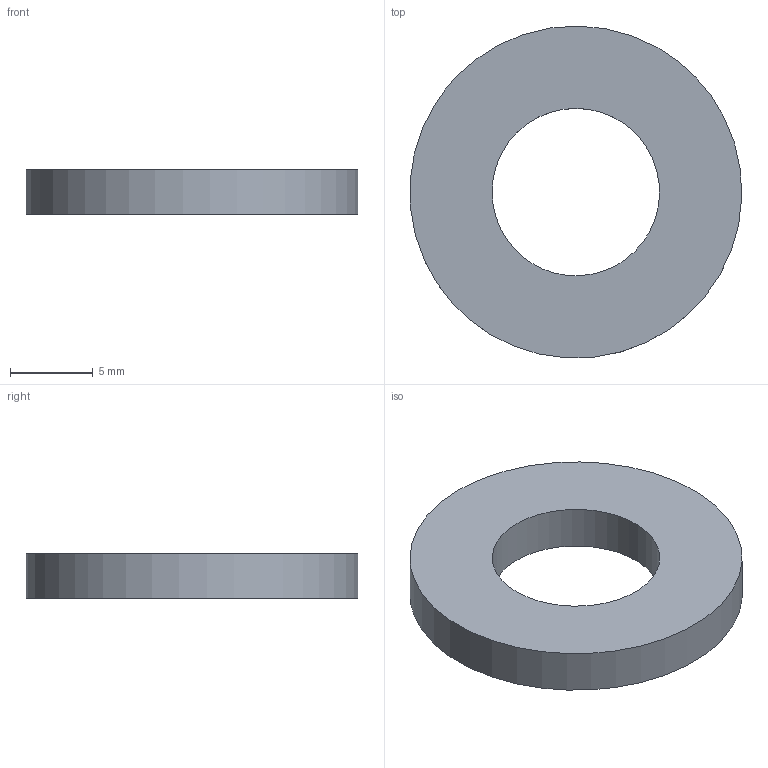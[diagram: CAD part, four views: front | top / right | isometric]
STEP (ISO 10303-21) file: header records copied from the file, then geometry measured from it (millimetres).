
FILE_DESCRIPTION ((), '1');
FILE_NAME ('C:\Users\tprototype\Desktop\TeslaGen-v1\Vendor Parts\M10 Fittings\M10 Washer\M10 Washer.stp', '2016-01-05T23:28:58', ('Unknown'), ('Unknown'), 'HarmonyWare STEP v1.7.11', 'HarmonyWare Translators', '');
FILE_SCHEMA (('CONFIG_CONTROL_DESIGN'));
Length unit declared in the file: millimetre
Products named in the file (1): product-name: product-name
Bounding box: 20 x 20.02 x 2.7 mm (x, y, z)
Volume: 633.3 mm3; surface area: 726.2 mm2
Topology: 1 solids, 1 shells, 4 faces, 6 edges, 4 vertices
Faces by surface type: bspline 4
Entity records: 231 total; most frequent: CARTESIAN_POINT 88, ORIENTED_EDGE 12, PERSON 8, ORGANIZATION 8, PERSON_AND_ORGANIZATION 8, EDGE_CURVE 6, EDGE_LOOP 6, PERSON_AND_ORGANIZATION_ROLE 5
